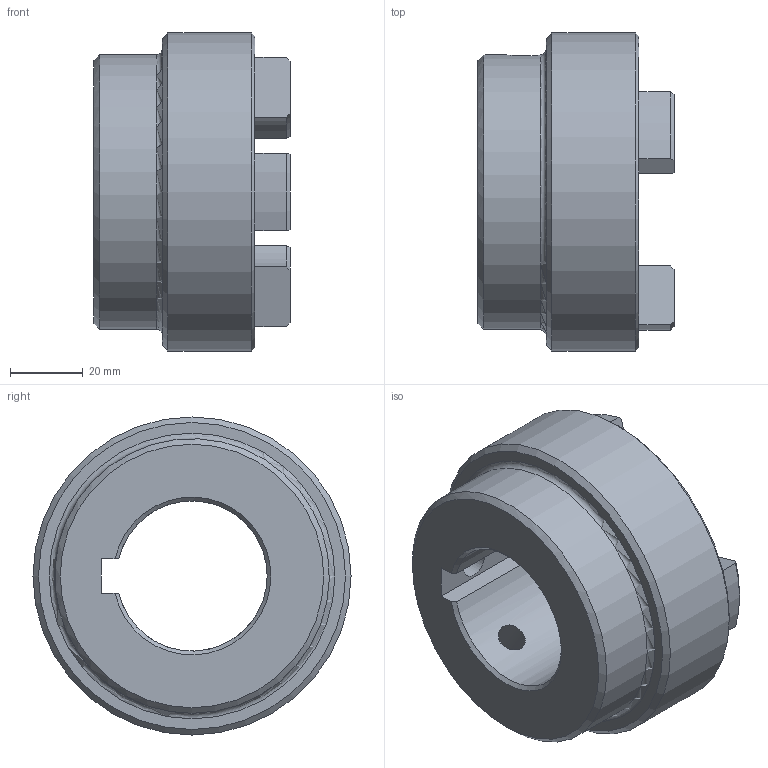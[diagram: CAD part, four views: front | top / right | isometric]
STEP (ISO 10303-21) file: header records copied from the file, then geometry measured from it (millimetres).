
FILE_DESCRIPTION (( 'STEP AP203' ), '1' );
FILE_NAME ('RC3.step', '2024-07-24T12:53:56', ( 'Adlan' ), ( '' ), 'SwSTEP 2.0', 'SolidWorks 2013', '' );
FILE_SCHEMA (( 'CONFIG_CONTROL_DESIGN' ));
Length unit declared in the file: inch
Products named in the file (1): RC3
Bounding box: 53.85 x 87.38 x 87.38 mm (x, y, z)
Volume: 149303.6 mm3; surface area: 30418.9 mm2
Topology: 1 solids, 1 shells, 71 faces, 191 edges, 121 vertices
Faces by surface type: cylinder 26, plane 20, torus 13, cone 12
Full cylindrical faces by diameter (mm): 7.937 x2, 75.438 x1, 87.376 x1
Entity records: 2461 total; most frequent: CARTESIAN_POINT 653, DIRECTION 374, ORIENTED_EDGE 350, EDGE_CURVE 175, AXIS2_PLACEMENT_3D 152, VERTEX_POINT 115, EDGE_LOOP 86, CIRCLE 80
